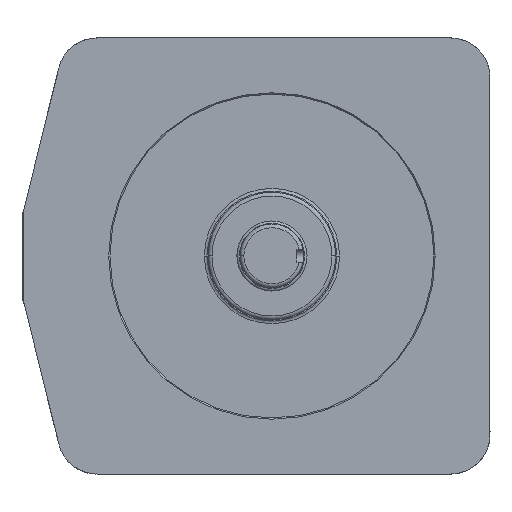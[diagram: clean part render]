
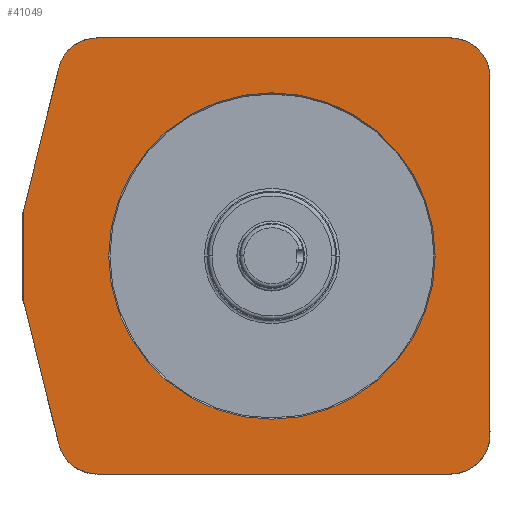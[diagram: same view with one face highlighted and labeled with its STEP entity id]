
A CAD part, top view. The second image highlights one B-rep face of the part: STEP entity #41049.
In plain terms, the highlighted planar face has unit normal (0, 0, 1).
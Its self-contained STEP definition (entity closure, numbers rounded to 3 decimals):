
#30270=CARTESIAN_POINT('',(6036.189,-1525.564,310.896));
#30271=VERTEX_POINT('',#30270);
#30297=CARTESIAN_POINT('',(6035.611,-1530.335,310.896));
#30298=VERTEX_POINT('',#30297);
#30305=CARTESIAN_POINT('',(6036.189,-1525.564,310.896));
#30306=VERTEX_POINT('',#30305);
#30307=CARTESIAN_POINT('',(6055.611,-1530.335,310.896));
#30308=DIRECTION('',(0.,0.,-1.));
#30309=DIRECTION('',(-1.,0.,0.));
#30310=AXIS2_PLACEMENT_3D('',#30307,#30308,#30309);
#30311=CIRCLE('',#30310,20.);
#30312=EDGE_CURVE('',#30298,#30306,#30311,.T.);
#30314=CARTESIAN_POINT('',(6036.189,-1525.564,310.896));
#30315=DIRECTION('',(0.239,0.971,0.));
#30316=VECTOR('',#30315,0.001);
#30317=LINE('',#30314,#30316);
#30318=EDGE_CURVE('',#30306,#30271,#30317,.T.);
#30330=CARTESIAN_POINT('',(6093.255,-1392.209,310.896));
#30331=VERTEX_POINT('',#30330);
#30388=CARTESIAN_POINT('',(6063.15,-1415.813,310.896));
#30389=VERTEX_POINT('',#30388);
#30396=CARTESIAN_POINT('',(6093.255,-1423.209,310.896));
#30397=DIRECTION('',(0.,0.,-1.));
#30398=DIRECTION('',(-0.971,0.239,0.));
#30399=AXIS2_PLACEMENT_3D('',#30396,#30397,#30398);
#30400=CIRCLE('',#30399,31.);
#30401=EDGE_CURVE('',#30389,#30331,#30400,.T.);
#30413=CARTESIAN_POINT('',(6370.338,-1392.209,310.896));
#30414=VERTEX_POINT('',#30413);
#30464=CARTESIAN_POINT('',(6093.255,-1392.209,310.896));
#30465=DIRECTION('',(1.,0.,-0.));
#30466=VECTOR('',#30465,277.084);
#30467=LINE('',#30464,#30466);
#30468=EDGE_CURVE('',#30331,#30414,#30467,.T.);
#30478=CARTESIAN_POINT('',(6401.338,-1423.209,310.896));
#30479=VERTEX_POINT('',#30478);
#30574=CARTESIAN_POINT('',(6370.338,-1423.209,310.896));
#30575=DIRECTION('',(0.,0.,-1.));
#30576=DIRECTION('',(0.,1.,0.));
#30577=AXIS2_PLACEMENT_3D('',#30574,#30575,#30576);
#30578=CIRCLE('',#30577,31.);
#30579=EDGE_CURVE('',#30414,#30479,#30578,.T.);
#30589=CARTESIAN_POINT('',(6401.338,-1703.209,310.896));
#30590=VERTEX_POINT('',#30589);
#30591=CARTESIAN_POINT('',(6401.338,-1423.209,310.896));
#30592=DIRECTION('',(-0.,-1.,0.));
#30593=VECTOR('',#30592,280.);
#30594=LINE('',#30591,#30593);
#30595=EDGE_CURVE('',#30479,#30590,#30594,.T.);
#30753=CARTESIAN_POINT('',(6370.338,-1734.209,310.896));
#30754=VERTEX_POINT('',#30753);
#30846=CARTESIAN_POINT('',(6370.338,-1703.209,310.896));
#30847=DIRECTION('',(0.,0.,-1.));
#30848=DIRECTION('',(1.,0.,0.));
#30849=AXIS2_PLACEMENT_3D('',#30846,#30847,#30848);
#30850=CIRCLE('',#30849,31.);
#30851=EDGE_CURVE('',#30590,#30754,#30850,.T.);
#30863=CARTESIAN_POINT('',(6063.143,-1710.604,310.896));
#30864=VERTEX_POINT('',#30863);
#30928=CARTESIAN_POINT('',(6093.248,-1734.209,310.896));
#30929=VERTEX_POINT('',#30928);
#30936=CARTESIAN_POINT('',(6093.248,-1703.209,310.896));
#30937=DIRECTION('',(0.,0.,-1.));
#30938=DIRECTION('',(0.,-1.,0.));
#30939=AXIS2_PLACEMENT_3D('',#30936,#30937,#30938);
#30940=CIRCLE('',#30939,31.);
#30941=EDGE_CURVE('',#30929,#30864,#30940,.T.);
#30953=CARTESIAN_POINT('',(6035.611,-1596.109,310.896));
#30954=VERTEX_POINT('',#30953);
#31017=CARTESIAN_POINT('',(6036.189,-1600.88,310.896));
#31018=VERTEX_POINT('',#31017);
#31025=CARTESIAN_POINT('',(6055.611,-1596.109,310.896));
#31026=DIRECTION('',(-0.,0.,-1.));
#31027=DIRECTION('',(-0.971,-0.239,0.));
#31028=AXIS2_PLACEMENT_3D('',#31025,#31026,#31027);
#31029=CIRCLE('',#31028,20.);
#31030=EDGE_CURVE('',#31018,#30954,#31029,.T.);
#31881=CARTESIAN_POINT('',(6036.189,-1525.564,310.896));
#31882=DIRECTION('',(0.239,0.971,0.));
#31883=VECTOR('',#31882,113.013);
#31884=LINE('',#31881,#31883);
#31885=EDGE_CURVE('',#30271,#30389,#31884,.T.);
#33332=CARTESIAN_POINT('',(6370.338,-1734.209,310.896));
#33333=DIRECTION('',(-1.,0.,0.));
#33334=VECTOR('',#33333,277.09);
#33335=LINE('',#33332,#33334);
#33336=EDGE_CURVE('',#30754,#30929,#33335,.T.);
#33773=CARTESIAN_POINT('',(6063.143,-1710.604,310.896));
#33774=DIRECTION('',(-0.239,0.971,0.));
#33775=VECTOR('',#33774,112.987);
#33776=LINE('',#33773,#33775);
#33777=EDGE_CURVE('',#30864,#31018,#33776,.T.);
#33897=CARTESIAN_POINT('',(6035.611,-1596.109,310.896));
#33898=DIRECTION('',(0.,1.,0.));
#33899=VECTOR('',#33898,65.773);
#33900=LINE('',#33897,#33899);
#33901=EDGE_CURVE('',#30954,#30298,#33900,.T.);
#41009=CARTESIAN_POINT('',(6370.338,-1703.209,310.896));
#41010=DIRECTION('',(0.,0.,1.));
#41011=DIRECTION('',(-1.,0.,0.));
#41012=AXIS2_PLACEMENT_3D('',#41009,#41010,#41011);
#41013=PLANE('',#41012);
#41014=ORIENTED_EDGE('',*,*,#30595,.F.);
#41015=ORIENTED_EDGE('',*,*,#30579,.F.);
#41016=ORIENTED_EDGE('',*,*,#30468,.F.);
#41017=ORIENTED_EDGE('',*,*,#30401,.F.);
#41018=ORIENTED_EDGE('',*,*,#31885,.F.);
#41019=ORIENTED_EDGE('',*,*,#30318,.F.);
#41020=ORIENTED_EDGE('',*,*,#30312,.F.);
#41021=ORIENTED_EDGE('',*,*,#33901,.F.);
#41022=ORIENTED_EDGE('',*,*,#31030,.F.);
#41023=ORIENTED_EDGE('',*,*,#33777,.F.);
#41024=ORIENTED_EDGE('',*,*,#30941,.F.);
#41025=ORIENTED_EDGE('',*,*,#33336,.F.);
#41026=ORIENTED_EDGE('',*,*,#30851,.F.);
#41027=EDGE_LOOP('',(#41014,#41015,#41016,#41017,#41018,#41019,#41020,#41021,#41022,#41023,#41024,#41025,#41026));
#41028=FACE_BOUND('',#41027,.T.);
#41029=CARTESIAN_POINT('',(6358.338,-1563.222,310.896));
#41030=VERTEX_POINT('',#41029);
#41031=CARTESIAN_POINT('',(6102.338,-1563.222,310.896));
#41032=VERTEX_POINT('',#41031);
#41033=CARTESIAN_POINT('',(6230.338,-1563.222,310.896));
#41034=DIRECTION('',(0.,0.,1.));
#41035=DIRECTION('',(-1.,0.,0.));
#41036=AXIS2_PLACEMENT_3D('',#41033,#41034,#41035);
#41037=CIRCLE('',#41036,128.);
#41038=EDGE_CURVE('',#41030,#41032,#41037,.T.);
#41039=ORIENTED_EDGE('',*,*,#41038,.F.);
#41040=CARTESIAN_POINT('',(6230.338,-1563.222,310.896));
#41041=DIRECTION('',(0.,0.,1.));
#41042=DIRECTION('',(-1.,0.,0.));
#41043=AXIS2_PLACEMENT_3D('',#41040,#41041,#41042);
#41044=CIRCLE('',#41043,128.);
#41045=EDGE_CURVE('',#41032,#41030,#41044,.T.);
#41046=ORIENTED_EDGE('',*,*,#41045,.F.);
#41047=EDGE_LOOP('',(#41039,#41046));
#41048=FACE_BOUND('',#41047,.T.);
#41049=ADVANCED_FACE('',(#41028,#41048),#41013,.T.);
